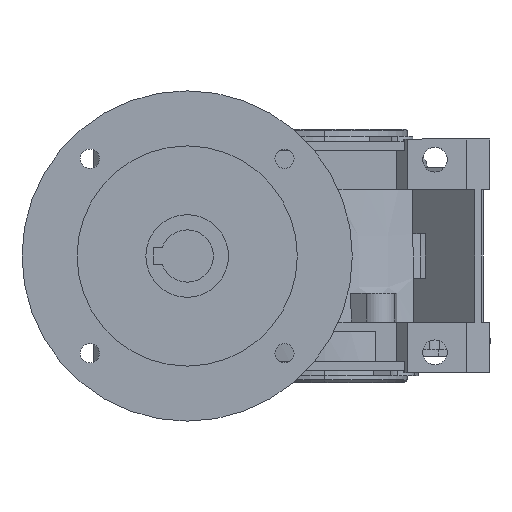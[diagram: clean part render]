
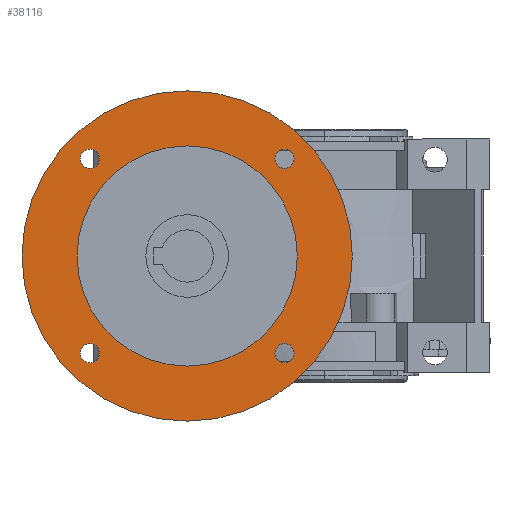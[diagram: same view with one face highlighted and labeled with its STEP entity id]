
A CAD part, left-side view. The second image highlights one B-rep face of the part: STEP entity #38116.
In plain terms, the highlighted planar face has unit normal (-1, 0, 0) as drawn and (1, 0, 0) by its records, which use the part's own axes.
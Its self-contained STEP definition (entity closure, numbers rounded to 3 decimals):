
#307 = DIRECTION ( 'NONE',  ( 1., 0., 0. ) ) ;
#504 = DIRECTION ( 'NONE',  ( 1., 0., 0. ) ) ;
#608 = DIRECTION ( 'NONE',  ( 0., 1., 0. ) ) ;
#879 = CARTESIAN_POINT ( 'NONE',  ( 10., -35.355, 38.855 ) ) ;
#1145 = DIRECTION ( 'NONE',  ( -1., 0., 0. ) ) ;
#2334 = CARTESIAN_POINT ( 'NONE',  ( 10., 0., -60. ) ) ;
#2641 = DIRECTION ( 'NONE',  ( 0., 0., -1. ) ) ;
#3350 = EDGE_CURVE ( 'NONE', #37814, #27476, #32505, .T. ) ;
#3434 = DIRECTION ( 'NONE',  ( -1., 0., 0. ) ) ;
#3603 = DIRECTION ( 'NONE',  ( 0., -1., 0. ) ) ;
#4950 = ORIENTED_EDGE ( 'NONE', *, *, #20228, .F. ) ;
#5062 = CARTESIAN_POINT ( 'NONE',  ( 10., 35.355, -35.355 ) ) ;
#6296 = AXIS2_PLACEMENT_3D ( 'NONE', #7441, #19797, #10558 ) ;
#6370 = CARTESIAN_POINT ( 'NONE',  ( 10., -35.355, 35.355 ) ) ;
#6396 = ORIENTED_EDGE ( 'NONE', *, *, #24918, .F. ) ;
#6468 = DIRECTION ( 'NONE',  ( 1., 0., 0. ) ) ;
#6473 = CARTESIAN_POINT ( 'NONE',  ( 10., -35.355, 31.855 ) ) ;
#6757 = EDGE_CURVE ( 'NONE', #34987, #29211, #27288, .T. ) ;
#6804 = ORIENTED_EDGE ( 'NONE', *, *, #30431, .F. ) ;
#7441 = CARTESIAN_POINT ( 'NONE',  ( 10., 0., 0. ) ) ;
#7978 = EDGE_LOOP ( 'NONE', ( #26422, #18023 ) ) ;
#8063 = FACE_BOUND ( 'NONE', #30525, .T. ) ;
#8175 = DIRECTION ( 'NONE',  ( 1., 0., 0. ) ) ;
#8963 = CIRCLE ( 'NONE', #31827, 60. ) ;
#9283 = CARTESIAN_POINT ( 'NONE',  ( 10., 60., 0. ) ) ;
#9384 = VERTEX_POINT ( 'NONE', #6473 ) ;
#9430 = CARTESIAN_POINT ( 'NONE',  ( 10., 35.355, 35.355 ) ) ;
#10246 = EDGE_LOOP ( 'NONE', ( #4950, #39616 ) ) ;
#10555 = AXIS2_PLACEMENT_3D ( 'NONE', #27869, #3434, #40309 ) ;
#10558 = DIRECTION ( 'NONE',  ( 0., 0., 1. ) ) ;
#10739 = CIRCLE ( 'NONE', #34710, 3.5 ) ;
#11471 = FACE_BOUND ( 'NONE', #10246, .T. ) ;
#11753 = CARTESIAN_POINT ( 'NONE',  ( 10., 35.355, 38.855 ) ) ;
#12367 = CARTESIAN_POINT ( 'NONE',  ( 10., 0., 40. ) ) ;
#12447 = FACE_BOUND ( 'NONE', #33794, .T. ) ;
#14016 = ORIENTED_EDGE ( 'NONE', *, *, #3350, .F. ) ;
#14314 = CIRCLE ( 'NONE', #21905, 3.5 ) ;
#16054 = DIRECTION ( 'NONE',  ( 1., 0., 0. ) ) ;
#16237 = VERTEX_POINT ( 'NONE', #17255 ) ;
#16341 = FACE_OUTER_BOUND ( 'NONE', #37447, .T. ) ;
#16377 = VERTEX_POINT ( 'NONE', #12367 ) ;
#16940 = AXIS2_PLACEMENT_3D ( 'NONE', #34579, #504, #3603 ) ;
#17223 = AXIS2_PLACEMENT_3D ( 'NONE', #9283, #31048, #22045 ) ;
#17255 = CARTESIAN_POINT ( 'NONE',  ( 10., 35.355, -31.855 ) ) ;
#18023 = ORIENTED_EDGE ( 'NONE', *, *, #40115, .F. ) ;
#19302 = EDGE_CURVE ( 'NONE', #26240, #16377, #38083, .T. ) ;
#19312 = EDGE_CURVE ( 'NONE', #27476, #37814, #21028, .T. ) ;
#19797 = DIRECTION ( 'NONE',  ( -1., 0., 0. ) ) ;
#20228 = EDGE_CURVE ( 'NONE', #9384, #33656, #10739, .T. ) ;
#20247 = DIRECTION ( 'NONE',  ( 1., 0., 0. ) ) ;
#20670 = CARTESIAN_POINT ( 'NONE',  ( 10., 0., 60. ) ) ;
#20687 = FACE_BOUND ( 'NONE', #7978, .T. ) ;
#20694 = CARTESIAN_POINT ( 'NONE',  ( 10., -35.355, -38.855 ) ) ;
#20815 = CARTESIAN_POINT ( 'NONE',  ( 10., 35.355, -38.855 ) ) ;
#21028 = CIRCLE ( 'NONE', #16940, 3.5 ) ;
#21710 = DIRECTION ( 'NONE',  ( 0., 0., 1. ) ) ;
#21905 = AXIS2_PLACEMENT_3D ( 'NONE', #31140, #16054, #608 ) ;
#22003 = ORIENTED_EDGE ( 'NONE', *, *, #40162, .F. ) ;
#22045 = DIRECTION ( 'NONE',  ( 0., 0., 1. ) ) ;
#22168 = VERTEX_POINT ( 'NONE', #2334 ) ;
#22404 = DIRECTION ( 'NONE',  ( 0., 0., 1. ) ) ;
#22627 = FACE_BOUND ( 'NONE', #34216, .T. ) ;
#23377 = DIRECTION ( 'NONE',  ( 0., 0., -1. ) ) ;
#24437 = CIRCLE ( 'NONE', #39679, 3.5 ) ;
#24592 = CIRCLE ( 'NONE', #6296, 60. ) ;
#24918 = EDGE_CURVE ( 'NONE', #36160, #16237, #24437, .T. ) ;
#25547 = CARTESIAN_POINT ( 'NONE',  ( 10., 0., 0. ) ) ;
#25827 = ORIENTED_EDGE ( 'NONE', *, *, #19312, .F. ) ;
#25997 = CARTESIAN_POINT ( 'NONE',  ( 10., 0., -40. ) ) ;
#26240 = VERTEX_POINT ( 'NONE', #25997 ) ;
#26360 = CIRCLE ( 'NONE', #10555, 40. ) ;
#26422 = ORIENTED_EDGE ( 'NONE', *, *, #6757, .F. ) ;
#27288 = CIRCLE ( 'NONE', #36686, 3.5 ) ;
#27476 = VERTEX_POINT ( 'NONE', #20694 ) ;
#27539 = ORIENTED_EDGE ( 'NONE', *, *, #32823, .T. ) ;
#27736 = ORIENTED_EDGE ( 'NONE', *, *, #39344, .F. ) ;
#27807 = DIRECTION ( 'NONE',  ( 1., 0., 0. ) ) ;
#27869 = CARTESIAN_POINT ( 'NONE',  ( 10., 0., 0. ) ) ;
#28100 = DIRECTION ( 'NONE',  ( 0., 0., 1. ) ) ;
#28574 = DIRECTION ( 'NONE',  ( 0., 0., 1. ) ) ;
#29211 = VERTEX_POINT ( 'NONE', #11753 ) ;
#29575 = VERTEX_POINT ( 'NONE', #20670 ) ;
#29597 = DIRECTION ( 'NONE',  ( 0., -1., 0. ) ) ;
#30431 = EDGE_CURVE ( 'NONE', #16237, #36160, #35795, .T. ) ;
#30525 = EDGE_LOOP ( 'NONE', ( #27539, #35241 ) ) ;
#31043 = AXIS2_PLACEMENT_3D ( 'NONE', #6370, #27807, #28100 ) ;
#31048 = DIRECTION ( 'NONE',  ( -1., 0., 0. ) ) ;
#31140 = CARTESIAN_POINT ( 'NONE',  ( 10., 35.355, 35.355 ) ) ;
#31827 = AXIS2_PLACEMENT_3D ( 'NONE', #25547, #1145, #22404 ) ;
#31946 = AXIS2_PLACEMENT_3D ( 'NONE', #38915, #20247, #29597 ) ;
#32085 = CIRCLE ( 'NONE', #31043, 3.5 ) ;
#32505 = CIRCLE ( 'NONE', #31946, 3.5 ) ;
#32823 = EDGE_CURVE ( 'NONE', #16377, #26240, #26360, .T. ) ;
#33216 = CARTESIAN_POINT ( 'NONE',  ( 10., 35.355, -35.355 ) ) ;
#33656 = VERTEX_POINT ( 'NONE', #879 ) ;
#33794 = EDGE_LOOP ( 'NONE', ( #25827, #14016 ) ) ;
#34042 = PLANE ( 'NONE',  #17223 ) ;
#34087 = CARTESIAN_POINT ( 'NONE',  ( 10., -35.355, 35.355 ) ) ;
#34216 = EDGE_LOOP ( 'NONE', ( #6396, #6804 ) ) ;
#34337 = DIRECTION ( 'NONE',  ( 0., 1., 0. ) ) ;
#34461 = CARTESIAN_POINT ( 'NONE',  ( 10., 0., 0. ) ) ;
#34579 = CARTESIAN_POINT ( 'NONE',  ( 10., -35.355, -35.355 ) ) ;
#34710 = AXIS2_PLACEMENT_3D ( 'NONE', #34087, #307, #21710 ) ;
#34987 = VERTEX_POINT ( 'NONE', #37514 ) ;
#35241 = ORIENTED_EDGE ( 'NONE', *, *, #19302, .T. ) ;
#35795 = CIRCLE ( 'NONE', #37708, 3.5 ) ;
#36160 = VERTEX_POINT ( 'NONE', #20815 ) ;
#36358 = DIRECTION ( 'NONE',  ( 1., 0., 0. ) ) ;
#36686 = AXIS2_PLACEMENT_3D ( 'NONE', #9430, #6468, #34337 ) ;
#37447 = EDGE_LOOP ( 'NONE', ( #22003, #27736 ) ) ;
#37459 = DIRECTION ( 'NONE',  ( -1., 0., 0. ) ) ;
#37514 = CARTESIAN_POINT ( 'NONE',  ( 10., 35.355, 31.855 ) ) ;
#37708 = AXIS2_PLACEMENT_3D ( 'NONE', #5062, #8175, #23377 ) ;
#37814 = VERTEX_POINT ( 'NONE', #38326 ) ;
#38083 = CIRCLE ( 'NONE', #39899, 40. ) ;
#38116 = ADVANCED_FACE ( 'NONE', ( #20687, #11471, #12447, #22627, #16341, #8063 ), #34042, .F. ) ;
#38326 = CARTESIAN_POINT ( 'NONE',  ( 10., -35.355, -31.855 ) ) ;
#38915 = CARTESIAN_POINT ( 'NONE',  ( 10., -35.355, -35.355 ) ) ;
#39021 = EDGE_CURVE ( 'NONE', #33656, #9384, #32085, .T. ) ;
#39344 = EDGE_CURVE ( 'NONE', #22168, #29575, #24592, .T. ) ;
#39616 = ORIENTED_EDGE ( 'NONE', *, *, #39021, .F. ) ;
#39679 = AXIS2_PLACEMENT_3D ( 'NONE', #33216, #36358, #2641 ) ;
#39899 = AXIS2_PLACEMENT_3D ( 'NONE', #34461, #37459, #28574 ) ;
#40115 = EDGE_CURVE ( 'NONE', #29211, #34987, #14314, .T. ) ;
#40162 = EDGE_CURVE ( 'NONE', #29575, #22168, #8963, .T. ) ;
#40309 = DIRECTION ( 'NONE',  ( 0., 0., 1. ) ) ;
